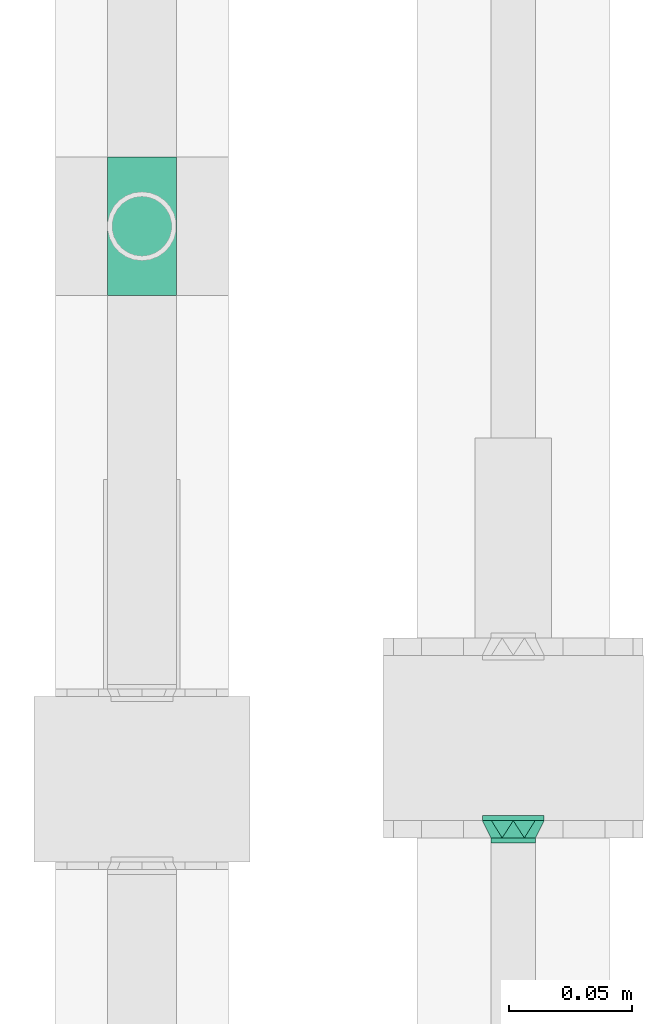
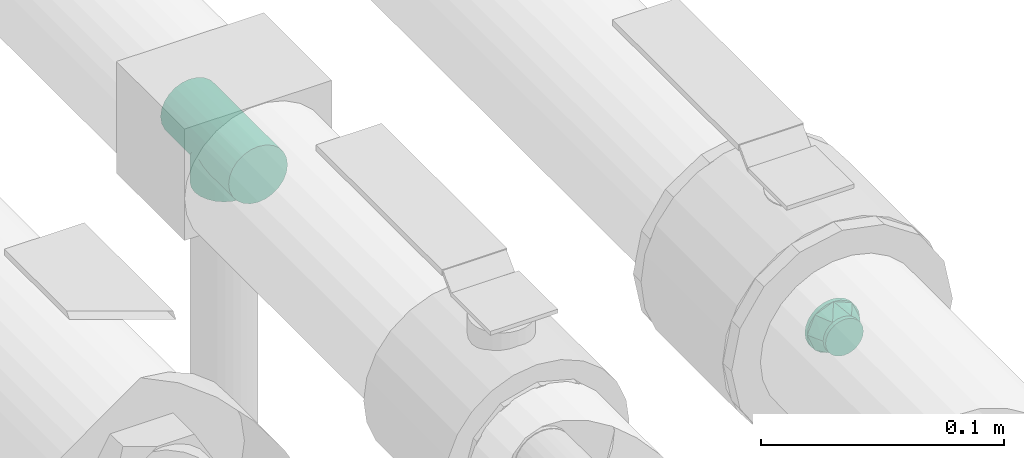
# One storey, part 82 of 83: 2 flow fittings.
"""IFC2X3 building model written with IfcOpenShell, lengths in millimetres."""

from ifc_helpers import new_model, entity, si_unit, converted_unit, derived_unit, direction, frame, origin_with_axes, place, context, subcontext, project, spatial, open_shell, surface_model, source, transform, mapped, type_object, element, save


model = new_model("IFC2X3")

# Units and contexts
model_context = context("Model", 3, precision=0.01, world=frame((0.0, 4.29681676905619e-09, 0.0)), true_north=direction((4.01073788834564e-13, 1.0)))
plan_context = context("Plan", 3, precision=0.01, world=frame((0.0, 4.29681676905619e-09, 0.0)), true_north=direction((4.01073788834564e-13, 1.0)))
body_context = subcontext(model_context, "Body", "Model", "MODEL_VIEW")
ifc_project = project(units=[converted_unit("PLANEANGLEUNIT", "DEGREE", entity("IfcPositiveLengthMeasure", 0.0174532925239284), si_unit("PLANEANGLEUNIT", "RADIAN"), dimensions=[0, 0, 0, 0, 0, 0, 0]), si_unit("AREAUNIT", "SQUARE_METRE"), si_unit("LENGTHUNIT", "METRE", prefix="MILLI"), si_unit("MASSUNIT", "GRAM", prefix="KILO"), si_unit("POWERUNIT", "WATT"), si_unit("PRESSUREUNIT", "PASCAL"), si_unit("FORCEUNIT", "NEWTON", prefix="KILO"), si_unit("ELECTRICVOLTAGEUNIT", "VOLT"), si_unit("ELECTRICCURRENTUNIT", "AMPERE"), si_unit("THERMODYNAMICTEMPERATUREUNIT", "DEGREE_CELSIUS"), si_unit("TIMEUNIT", "SECOND"), si_unit("VOLUMEUNIT", "CUBIC_METRE"), derived_unit("LINEARVELOCITYUNIT", [(si_unit("LENGTHUNIT", "METRE"), 1), (si_unit("TIMEUNIT", "SECOND"), -1)]), derived_unit("VOLUMETRICFLOWRATEUNIT", [(si_unit("VOLUMEUNIT", "CUBIC_METRE"), 1), (si_unit("TIMEUNIT", "SECOND"), -1)]), derived_unit("THERMALTRANSMITTANCEUNIT", [(si_unit("POWERUNIT", "WATT"), 1), (si_unit("THERMODYNAMICTEMPERATUREUNIT", "KELVIN"), -1), (si_unit("AREAUNIT", "SQUARE_METRE"), -1)]), derived_unit("SOUNDPRESSUREUNIT", [(si_unit("PRESSUREUNIT", "PASCAL"), 1)])], contexts=[model_context, plan_context])

# Site, building, storey
site_placement = place(None, frame((0.0, -4.29681676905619e-09, 0.0), z_axis=(0.0, 0.0, 1.0), x_axis=(1.0, 0.0, 0.0)))
site = spatial("IfcSite", under=ifc_project, at=site_placement, Name="ENGM", CompositionType="ELEMENT")
building_placement = place(site_placement, frame((0.0, 4.29681676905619e-09, 0.0), z_axis=(0.0, 0.0, 1.0), x_axis=(1.0, 0.0, 0.0)))
building = spatial("IfcBuilding", under=site, at=building_placement, Name="TI", CompositionType="ELEMENT")
storey_placement = place(building_placement, frame((0.0, 0.0, 204000.0), z_axis=(0.0, 0.0, 1.0), x_axis=(1.0, 0.0, 0.0)))
storey = spatial("IfcBuildingStorey", under=building, at=storey_placement, Name="Nivå D", CompositionType="ELEMENT", Elevation=204000.0)

# Flow fittings
pipe_fitting_type_1 = type_object("IfcPipeFittingType", Name="magi_pipe_cu_tee_centric_90_001", PredefinedType="JUNCTION")
shared_shape_1 = source(origin_with_axes(), body_context, "Body", "SurfaceModel", [
    surface_model("IfcShellBasedSurfaceModel", [(-28.0, 3.62347, -13.52296), (-28.0, 0.0, -14.0), (-28.0, 9.89949, -9.89949), (-28.0, 7.0, -12.12436), (-28.0, 13.52296, -3.62347), (-28.0, 12.12436, -7.0), (-28.0, -12.12436, -7.0), (-28.0, -7.0, -12.12436), (-28.0, -9.89949, -9.89949), (-28.0, -3.62347, -13.52296), (-28.0, -13.52296, -3.62347), (-28.0, -14.0, 0.0), (-28.0, 14.0, 0.0), (-28.0, 12.12436, 7.0), (-28.0, 13.52296, 3.62347), (-28.0, 7.0, 12.12436), (-28.0, 3.62347, 13.52296), (-28.0, 9.89949, 9.89949), (-28.0, 0.0, 14.0), (-28.0, -13.52296, 3.62347), (-28.0, -12.12436, 7.0), (-28.0, -9.89949, 9.89949), (-28.0, -7.0, 12.12436), (-28.0, -3.62347, 13.52296), (28.0, 9.89949, -9.89949), (28.0, 0.0, -14.0), (28.0, 3.62347, -13.52296), (28.0, 7.0, -12.12436), (28.0, 12.12436, -7.0), (28.0, 13.52296, -3.62347), (28.0, -12.12436, -7.0), (28.0, -3.62347, -13.52296), (28.0, -9.89949, -9.89949), (28.0, -7.0, -12.12436), (28.0, -14.0, 0.0), (28.0, -13.52296, -3.62347), (28.0, 7.0, 12.12436), (28.0, 14.0, 0.0), (28.0, 13.52296, 3.62347), (28.0, 12.12436, 7.0), (28.0, 3.62347, 13.52296), (28.0, 9.89949, 9.89949), (28.0, 0.0, 14.0), (28.0, -12.12436, 7.0), (28.0, -13.52296, 3.62347), (28.0, -9.89949, 9.89949), (28.0, -3.62347, 13.52296), (28.0, -7.0, 12.12436), (13.49217, -13.49217, 3.73648), (14.0, -14.0, 0.0), (12.11708, -12.11708, 7.01259), (7.84674, -7.84674, 11.59434), (10.15905, -10.15905, 9.63294), (-14.0, -14.0, 0.0), (-13.49217, -13.49217, 3.73648), (-12.11708, -12.11708, 7.01259), (-10.15905, -10.15905, 9.63294), (-7.84674, -7.84674, 11.59434), (-5.32575, -5.32575, 12.94745), (5.32575, -5.32575, 12.94745), (2.68835, -2.68835, 13.73946), (0.0, 0.0, 14.0), (-2.68835, -2.68835, 13.73946), (2.68835, -2.68835, -13.73946), (0.0, 0.0, -14.0), (-2.68835, -2.68835, -13.73946), (-5.32575, -5.32575, -12.94745), (5.32575, -5.32575, -12.94745), (7.84674, -7.84674, -11.59434), (10.15905, -10.15905, -9.63294), (12.11708, -12.11708, -7.01259), (13.49217, -13.49217, -3.73648), (-7.84674, -7.84674, -11.59434), (-10.15905, -10.15905, -9.63294), (-13.49217, -13.49217, -3.73648), (-12.11708, -12.11708, -7.01259), (9.89949, -21.0, -9.89949), (0.0, -21.0, -14.0), (3.62347, -21.0, -13.52296), (7.0, -21.0, -12.12436), (12.12436, -21.0, -7.0), (13.52296, -21.0, -3.62347), (-12.12436, -21.0, -7.0), (-14.0, -21.0, 0.0), (-3.62347, -21.0, -13.52296), (-9.89949, -21.0, -9.89949), (-7.0, -21.0, -12.12436), (-13.52296, -21.0, -3.62347), (-13.52296, -21.0, 3.62347), (14.0, -21.0, 0.0), (13.52296, -21.0, 3.62347), (12.12436, -21.0, 7.0), (-9.89949, -21.0, 9.89949), (7.0, -21.0, 12.12436), (0.0, -21.0, 14.0), (9.89949, -21.0, 9.89949), (3.62347, -21.0, 13.52296), (-12.12436, -21.0, 7.0), (-3.62347, -21.0, 13.52296), (-7.0, -21.0, 12.12436)], [open_shell([[[0, 1, 2]], [[3, 0, 2]], [[1, 4, 5]], [[2, 1, 5]], [[6, 4, 1]], [[7, 8, 9]], [[6, 9, 8]], [[10, 11, 6]], [[1, 9, 6]], [[6, 11, 4]], [[11, 12, 4]], [[13, 14, 12]], [[15, 13, 12]], [[15, 11, 16]], [[17, 13, 15]], [[11, 18, 16]], [[19, 20, 11]], [[20, 21, 11]], [[22, 23, 21]], [[18, 21, 23]], [[11, 21, 18]], [[11, 15, 12]], [[24, 25, 26]], [[24, 26, 27]], [[28, 29, 25]], [[28, 25, 24]], [[25, 29, 30]], [[31, 32, 33]], [[32, 31, 30]], [[30, 34, 35]], [[30, 31, 25]], [[30, 36, 34]], [[30, 29, 37]], [[37, 38, 39]], [[39, 36, 30]], [[40, 34, 36]], [[36, 39, 41]], [[34, 40, 42]], [[34, 43, 44]], [[34, 45, 43]], [[45, 46, 47]], [[46, 45, 42]], [[42, 45, 34]], [[39, 30, 37]], [[44, 43, 48]], [[34, 44, 49]], [[49, 44, 48]], [[43, 50, 48]], [[45, 47, 51]], [[50, 43, 52]], [[51, 52, 45]], [[52, 43, 45]], [[53, 54, 19]], [[53, 19, 11]], [[19, 54, 20]], [[54, 55, 20]], [[56, 57, 21]], [[21, 20, 56]], [[21, 57, 22]], [[56, 20, 55]], [[22, 57, 58]], [[51, 47, 59]], [[60, 42, 61]], [[59, 46, 60]], [[46, 59, 47]], [[60, 46, 42]], [[61, 42, 40]], [[39, 38, 14]], [[17, 36, 41]], [[13, 41, 39]], [[40, 36, 15]], [[12, 38, 37]], [[62, 61, 18]], [[62, 23, 58]], [[23, 62, 18]], [[58, 23, 22]], [[61, 16, 18]], [[40, 16, 61]], [[15, 16, 40]], [[15, 36, 17]], [[13, 17, 41]], [[14, 13, 39]], [[38, 12, 14]], [[5, 28, 24]], [[12, 37, 29]], [[24, 27, 3]], [[28, 4, 29]], [[25, 31, 63]], [[25, 64, 26]], [[64, 25, 63]], [[27, 26, 0]], [[64, 0, 26]], [[5, 24, 2]], [[4, 28, 5]], [[24, 3, 2]], [[4, 12, 29]], [[65, 66, 9]], [[1, 0, 64]], [[1, 65, 9]], [[66, 7, 9]], [[0, 3, 27]], [[1, 64, 65]], [[63, 31, 67]], [[33, 32, 68]], [[69, 68, 32]], [[30, 70, 69]], [[69, 32, 30]], [[33, 68, 67]], [[35, 34, 49]], [[35, 71, 30]], [[71, 35, 49]], [[30, 71, 70]], [[72, 7, 66]], [[72, 8, 7]], [[8, 72, 73]], [[8, 73, 6]], [[74, 53, 10]], [[75, 74, 6]], [[74, 10, 6]], [[10, 53, 11]], [[75, 6, 73]], [[33, 67, 31]], [[76, 77, 78]], [[76, 78, 79]], [[76, 80, 81]], [[77, 76, 82]], [[83, 76, 81]], [[84, 85, 86]], [[85, 84, 82]], [[82, 83, 87]], [[82, 84, 77]], [[76, 83, 82]], [[81, 88, 83]], [[89, 90, 91]], [[92, 89, 91]], [[91, 93, 94]], [[93, 91, 95]], [[96, 94, 93]], [[88, 92, 97]], [[88, 89, 92]], [[92, 98, 99]], [[98, 92, 94]], [[91, 94, 92]], [[89, 88, 81]], [[88, 53, 83]], [[97, 54, 88]], [[57, 92, 99]], [[99, 98, 58]], [[97, 92, 56]], [[94, 62, 98]], [[54, 53, 88]], [[55, 54, 97]], [[57, 56, 92]], [[62, 58, 98]], [[57, 99, 58]], [[55, 97, 56]], [[94, 61, 62]], [[51, 93, 95]], [[59, 96, 93]], [[90, 89, 49]], [[95, 91, 52]], [[90, 48, 91]], [[48, 90, 49]], [[61, 94, 60]], [[59, 60, 96]], [[48, 50, 91]], [[52, 51, 95]], [[50, 52, 91]], [[59, 93, 51]], [[60, 94, 96]], [[81, 49, 89]], [[80, 71, 81]], [[68, 76, 79]], [[79, 78, 67]], [[80, 76, 69]], [[77, 63, 78]], [[71, 49, 81]], [[70, 71, 80]], [[68, 69, 76]], [[63, 67, 78]], [[68, 79, 67]], [[70, 80, 69]], [[77, 64, 63]], [[86, 66, 84]], [[85, 72, 86]], [[87, 83, 53]], [[85, 82, 73]], [[87, 74, 82]], [[74, 87, 53]], [[64, 77, 65]], [[66, 65, 84]], [[74, 75, 82]], [[73, 72, 85]], [[75, 73, 82]], [[66, 86, 72]], [[65, 77, 84]]])]),
])
flow_fitting_1_placement = place(storey_placement, frame((599881.50429, 699013.57232, 6052.17455), z_axis=(1.0, 0.0, 0.0), x_axis=(0.0, 1.0, 0.0)))
element("IfcFlowFitting", 1, at=flow_fitting_1_placement, inside=storey, type_object=pipe_fitting_type_1, Name="magi_pipe_cu_tee_centric_90_001", context=body_context, shape_type="MappedRepresentation", body=[
    mapped(shared_shape_1, transform((0.0, 0.0, 0.0), scale=1.0)),
])
pipe_fitting_type_2 = type_object("IfcPipeFittingType", Name="magi_pipe_cu_reducer_centric_short_001", PredefinedType="TRANSITION")
shared_shape_2 = source(origin_with_axes(), body_context, "Body", "SurfaceModel", [
    surface_model("IfcShellBasedSurfaceModel", [(-2.0, 0.0, 12.5), (-2.0, 3.23524, 12.07407), (-2.0, 6.25, 10.82532), (-2.0, -10.82532, 6.25), (-2.0, 8.83883, 8.83883), (-2.0, 10.82532, 6.25), (-2.0, 12.07407, 3.23524), (-2.0, -12.07407, -3.23524), (-2.0, -3.23524, 12.07407), (-2.0, -8.83883, 8.83883), (-2.0, -6.25, 10.82532), (-2.0, -12.5, 0.0), (-2.0, -12.07407, 3.23524), (-2.0, 12.07407, -3.23524), (-2.0, 8.83883, -8.83883), (-2.0, 10.82532, -6.25), (-2.0, 6.25, -10.82532), (-2.0, 3.23524, -12.07407), (-2.0, -6.25, -10.82532), (-2.0, -8.83883, -8.83883), (-2.0, -10.82532, -6.25), (-2.0, 0.0, -12.5), (-2.0, -3.23524, -12.07407), (-2.0, 12.5, 0.0), (0.0, 3.23524, -12.07407), (0.0, 6.25, -10.82532), (0.0, 8.83883, -8.83883), (0.0, 12.07407, -3.23524), (0.0, -12.07407, -3.23524), (0.0, 10.82532, -6.25), (0.0, -10.82532, 6.25), (0.0, 0.0, -12.5), (0.0, -6.25, -10.82532), (0.0, -3.23524, -12.07407), (0.0, -8.83883, -8.83883), (0.0, -10.82532, -6.25), (0.0, 12.5, 0.0), (0.0, 12.07407, 3.23524), (0.0, 10.82532, 6.25), (0.0, 8.83883, 8.83883), (0.0, 6.25, 10.82532), (0.0, 3.23524, 12.07407), (0.0, 0.0, 12.5), (0.0, -12.5, 0.0), (0.0, -12.07407, 3.23524), (0.0, -8.83883, 8.83883), (0.0, -3.23524, 12.07407), (0.0, -6.25, 10.82532), (9.0, 8.69333, -2.32937), (9.0, 2.32937, -8.69333), (9.0, 4.5, -7.79423), (9.0, 6.36396, -6.36396), (9.0, 0.0, -9.0), (9.0, 7.79423, -4.5), (9.0, 7.79423, 4.5), (9.0, -8.69333, -2.32937), (9.0, -4.5, -7.79423), (9.0, -2.32937, -8.69333), (9.0, -6.36396, -6.36396), (9.0, -7.79423, -4.5), (9.0, 9.0, 0.0), (9.0, 8.69333, 2.32937), (9.0, -9.0, 0.0), (9.0, 0.0, 9.0), (9.0, 6.36396, 6.36396), (9.0, 4.5, 7.79423), (9.0, 2.32937, 8.69333), (9.0, -6.36396, 6.36396), (9.0, -8.69333, 2.32937), (9.0, -7.79423, 4.5), (9.0, -2.32937, 8.69333), (9.0, -4.5, 7.79423), (7.0, 0.0, 9.0), (7.0, 2.32937, 8.69333), (7.0, 4.5, 7.79423), (7.0, 6.36396, 6.36396), (7.0, 7.79423, 4.5), (7.0, -9.0, 0.0), (7.0, -8.69333, -2.32937), (7.0, -2.32937, 8.69333), (7.0, -6.36396, 6.36396), (7.0, -4.5, 7.79423), (7.0, -8.69333, 2.32937), (7.0, -7.79423, 4.5), (7.0, 8.69333, 2.32937), (7.0, 9.0, 0.0), (7.0, 8.69333, -2.32937), (7.0, -6.36396, -6.36396), (7.0, 6.36396, -6.36396), (7.0, 7.79423, -4.5), (7.0, 4.5, -7.79423), (7.0, 2.32937, -8.69333), (7.0, -4.5, -7.79423), (7.0, -7.79423, -4.5), (7.0, 0.0, -9.0), (7.0, -2.32937, -8.69333)], [open_shell([[[0, 1, 2]], [[3, 0, 2]], [[4, 5, 6]], [[2, 4, 7]], [[2, 7, 3]], [[8, 9, 10]], [[9, 8, 3]], [[3, 11, 12]], [[3, 8, 0]], [[3, 7, 11]], [[13, 4, 6]], [[7, 4, 13]], [[14, 13, 15]], [[14, 16, 17]], [[14, 17, 13]], [[18, 13, 17]], [[7, 19, 20]], [[7, 13, 19]], [[18, 21, 22]], [[19, 13, 18]], [[17, 21, 18]], [[13, 6, 23]], [[24, 25, 26]], [[24, 26, 27]], [[24, 27, 28]], [[27, 26, 29]], [[30, 28, 27]], [[31, 32, 33]], [[31, 24, 32]], [[34, 28, 35]], [[34, 32, 24]], [[28, 34, 24]], [[27, 36, 30]], [[37, 38, 39]], [[37, 39, 40]], [[40, 41, 42]], [[37, 40, 30]], [[30, 40, 42]], [[43, 30, 44]], [[28, 30, 43]], [[45, 46, 47]], [[46, 45, 30]], [[42, 46, 30]], [[30, 36, 37]], [[7, 28, 11]], [[20, 35, 7]], [[32, 19, 18]], [[20, 19, 34]], [[33, 18, 22]], [[7, 35, 28]], [[28, 43, 11]], [[33, 32, 18]], [[34, 19, 32]], [[34, 35, 20]], [[31, 33, 22]], [[22, 21, 31]], [[17, 24, 21]], [[16, 25, 17]], [[29, 14, 15]], [[16, 14, 26]], [[27, 15, 13]], [[16, 26, 25]], [[25, 24, 17]], [[36, 27, 13]], [[29, 15, 27]], [[29, 26, 14]], [[23, 36, 13]], [[21, 24, 31]], [[6, 37, 23]], [[5, 38, 6]], [[40, 4, 2]], [[5, 4, 39]], [[41, 2, 1]], [[6, 38, 37]], [[37, 36, 23]], [[41, 40, 2]], [[39, 4, 40]], [[39, 38, 5]], [[42, 41, 1]], [[1, 0, 42]], [[8, 46, 0]], [[10, 47, 8]], [[30, 9, 3]], [[10, 9, 45]], [[44, 3, 12]], [[10, 45, 47]], [[47, 46, 8]], [[43, 44, 12]], [[30, 3, 44]], [[30, 45, 9]], [[11, 43, 12]], [[0, 46, 42]], [[48, 49, 50]], [[48, 50, 51]], [[49, 48, 52]], [[48, 51, 53]], [[54, 55, 48]], [[52, 56, 57]], [[56, 52, 58]], [[58, 55, 59]], [[58, 52, 48]], [[48, 55, 58]], [[48, 60, 61]], [[62, 55, 54]], [[63, 54, 64]], [[65, 66, 63]], [[65, 63, 64]], [[67, 54, 63]], [[68, 67, 69]], [[67, 68, 62]], [[67, 70, 71]], [[67, 62, 54]], [[63, 70, 67]], [[54, 48, 61]], [[72, 73, 74]], [[72, 74, 75]], [[72, 76, 77]], [[76, 72, 75]], [[78, 77, 76]], [[79, 80, 81]], [[79, 72, 80]], [[80, 82, 83]], [[82, 80, 77]], [[72, 77, 80]], [[76, 84, 85]], [[86, 87, 85]], [[88, 86, 89]], [[90, 91, 86]], [[90, 86, 88]], [[92, 86, 91]], [[78, 87, 93]], [[78, 85, 87]], [[92, 94, 95]], [[92, 87, 86]], [[94, 92, 91]], [[85, 78, 76]], [[78, 55, 77]], [[93, 59, 78]], [[56, 87, 92]], [[93, 87, 58]], [[57, 92, 95]], [[78, 59, 55]], [[55, 62, 77]], [[57, 56, 92]], [[58, 87, 56]], [[58, 59, 93]], [[52, 57, 95]], [[95, 94, 52]], [[91, 49, 94]], [[90, 50, 91]], [[53, 88, 89]], [[90, 88, 51]], [[48, 89, 86]], [[90, 51, 50]], [[50, 49, 91]], [[60, 48, 86]], [[53, 89, 48]], [[53, 51, 88]], [[85, 60, 86]], [[94, 49, 52]], [[84, 61, 85]], [[76, 54, 84]], [[65, 75, 74]], [[76, 75, 64]], [[66, 74, 73]], [[84, 54, 61]], [[61, 60, 85]], [[66, 65, 74]], [[64, 75, 65]], [[64, 54, 76]], [[63, 66, 73]], [[73, 72, 63]], [[79, 70, 72]], [[81, 71, 79]], [[69, 80, 83]], [[81, 80, 67]], [[68, 83, 82]], [[81, 67, 71]], [[71, 70, 79]], [[62, 68, 82]], [[69, 83, 68]], [[69, 67, 80]], [[77, 62, 82]], [[72, 70, 63]], [[74, 81, 85]], [[85, 81, 92]], [[92, 90, 85]], [[92, 81, 77]], [[42, 39, 45]], [[43, 45, 39]], [[39, 26, 43]], [[31, 43, 26]], [[34, 43, 31]], [[26, 39, 36]], [[85, 90, 26]], [[26, 36, 85]], [[90, 31, 26]], [[92, 77, 34]], [[92, 34, 31]], [[34, 77, 43]], [[92, 31, 90]], [[77, 81, 45]], [[45, 43, 77]], [[81, 42, 45]], [[74, 85, 39]], [[74, 39, 42]], [[39, 85, 36]], [[74, 42, 81]]])]),
])
flow_fitting_2_placement = place(storey_placement, frame((600031.9743, 698772.72914, 6052.20000000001), z_axis=(0.0, 0.0, 1.0), x_axis=(0.0, -1.0, 0.0)))
element("IfcFlowFitting", 2, at=flow_fitting_2_placement, inside=storey, type_object=pipe_fitting_type_2, Name="magi_pipe_cu_reducer_centric_short_001", context=body_context, shape_type="MappedRepresentation", body=[
    mapped(shared_shape_2, transform((0.0, 0.0, 0.0), scale=1.0)),
])

save(model, "model.ifc")
